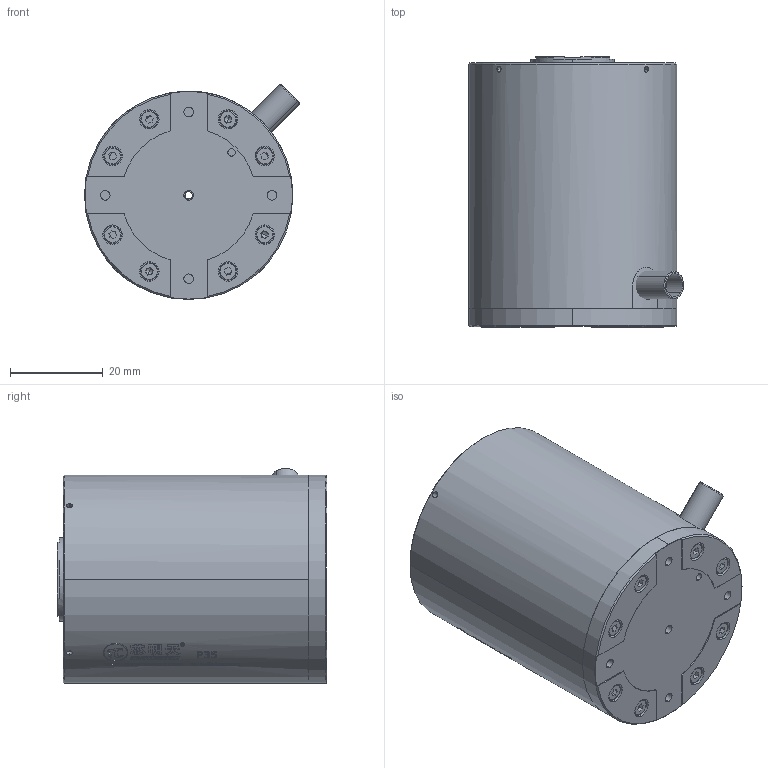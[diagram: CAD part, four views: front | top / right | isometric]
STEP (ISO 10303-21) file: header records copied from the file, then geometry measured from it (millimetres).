
FILE_DESCRIPTION (( 'STEP AP203' ), '1' );
FILE_NAME ('P35-B1俋倛芞.STEP', '2019-11-29T03:47:29', ( '' ), ( '' ), 'SwSTEP 2.0', 'SolidWorks 2016', '' );
FILE_SCHEMA (( 'CONFIG_CONTROL_DESIGN' ));
Products named in the file (1): P35-B1俋倛芞
Bounding box: 46.44 x 58.3 x 46.44 mm (x, y, z)
Surface area: 14285.5 mm2 (no closed solid volume)
Topology: 0 solids, 70 shells, 435 faces, 2603 edges, 2212 vertices
Faces by surface type: cylinder 177, plane 165, bspline 51, cone 26, torus 16
Entity records: 37453 total; most frequent: CARTESIAN_POINT 19947, ORIENTED_EDGE 3335, DIRECTION 2766, EDGE_CURVE 2597, VERTEX_POINT 2212, B_SPLINE_CURVE_WITH_KNOTS 1165, AXIS2_PLACEMENT_3D 949, LINE 868
